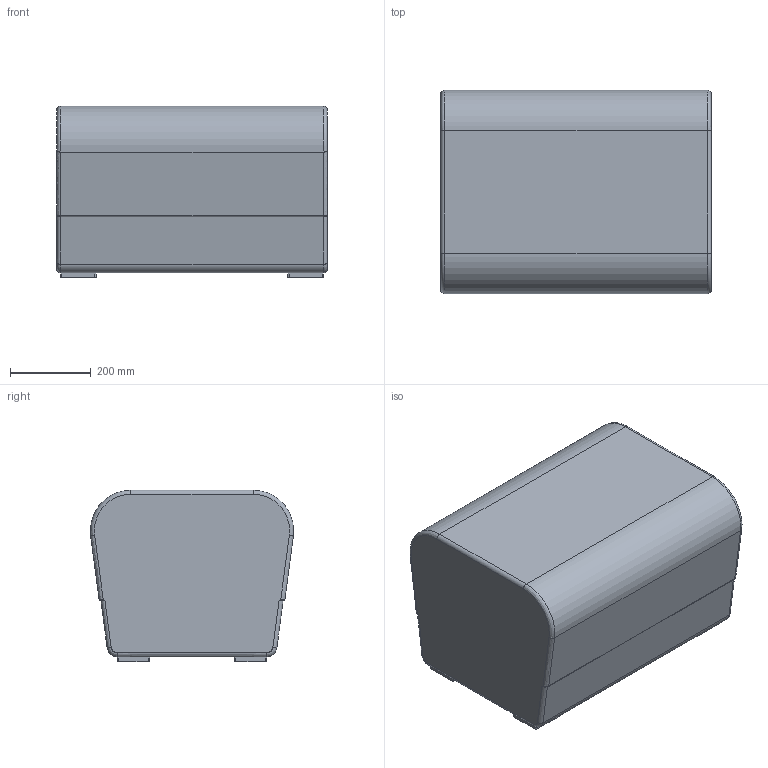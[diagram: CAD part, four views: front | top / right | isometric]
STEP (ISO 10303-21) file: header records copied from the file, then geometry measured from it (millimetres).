
FILE_DESCRIPTION(/* description */ (''),/* implementation_level */ '2;1');
FILE_NAME(/* name */ 'OP55AE~1',/* time_stamp */ '2015-09-28T21:35:13+02:00',/* author */ (''),/* organization */ (''),/* preprocessor_version */ 'ST-DEVELOPER v15',/* originating_system */ '',/* authorisation */ '');
FILE_SCHEMA (('AUTOMOTIVE_DESIGN'));
Length unit declared in the file: millimetre
Products named in the file (1): Document
Bounding box: 670 x 502.5 x 424 mm (x, y, z)
Volume: 337549.2 mm3; surface area: 1541225.8 mm2
Topology: 4 solids, 8 shells, 78 faces, 211 edges, 145 vertices
Faces by surface type: bspline 65, plane 13
Entity records: 2718 total; most frequent: CARTESIAN_POINT 1570, ORIENTED_EDGE 360, EDGE_CURVE 210, VERTEX_POINT 144, ADVANCED_FACE 78, FACE_OUTER_BOUND 78, EDGE_LOOP 78, B_SPLINE_CURVE_WITH_KNOTS 23
